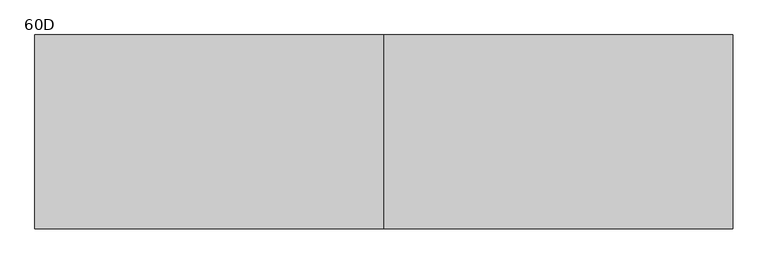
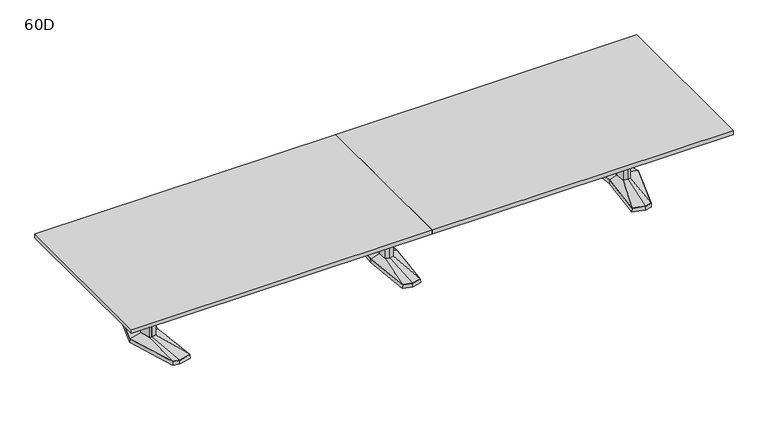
"""IFC4 building model written with IfcOpenShell, lengths in millimetres: furniture geometry, Coalesse_AM_Table_Conference_ETable2_Rectangular_18ft_AluminiumBase : 60D."""

import ifcopenshell
import ifcopenshell.guid

model = None  # the IFC model being written
_history = None  # IfcOwnerHistory: only IFC2X3 demands one
_inside = {}  # id of a spatial element -> (the spatial element, [elements in it])
_under = {}  # id of a project, library or spatial element -> (it, [spatial elements below it])
_declared = {}  # id of a project -> (the project, [libraries it declares])
_typed = {}  # id of a type object -> (the type object, [elements of that type])
_made_of = {}  # id of a material, layer set ... -> (it, [elements and type objects made of it])


def new_model(schema):
    """Start an empty IFC model of exactly this schema.

    Asked for "IFC4X3", IfcOpenShell would pick the latest addendum, in which some entities
    have other attributes; the version numbers below select the first issue.
    IFC2X3 requires an IfcOwnerHistory on every rooted entity: one is made here for all.
    """
    global model, _history
    if schema == "IFC4X3":
        model = ifcopenshell.file(schema_version=(4, 3, 0, 0))
    else:
        model = ifcopenshell.file(schema=schema)
    _inside.clear()
    _under.clear()
    _declared.clear()
    _typed.clear()
    _made_of.clear()
    _history = None
    if model.schema == "IFC2X3":
        org = make("IfcOrganization", Name="unknown")
        user = make(
            "IfcPersonAndOrganization",
            ThePerson=make("IfcPerson", FamilyName="unknown"),
            TheOrganization=org,
        )
        app = make(
            "IfcApplication",
            ApplicationDeveloper=org,
            Version="unknown",
            ApplicationFullName="unknown",
            ApplicationIdentifier="unknown",
        )
        _history = make(
            "IfcOwnerHistory",
            OwningUser=user,
            OwningApplication=app,
            ChangeAction="ADDED",
            CreationDate=0,
        )
    return model


def make(cls, **values):
    """One entity of the class cls with the attributes given. An attribute that is None is left unset."""
    return model.create_entity(
        cls, **{name: value for name, value in values.items() if value is not None}
    )


def rooted(cls, **values):
    """An entity with a GlobalId (a new one), such as an element, a storey or a relation."""
    return make(cls, GlobalId=ifcopenshell.guid.new(), OwnerHistory=_history, **values)


def si_unit(unit_type, name, prefix=None):
    """IfcSIUnit, for example si_unit("LENGTHUNIT", "METRE", prefix="MILLI")."""
    return make("IfcSIUnit", UnitType=unit_type, Prefix=prefix, Name=name)


def assignment(units):
    """IfcUnitAssignment: the units of a project."""
    return None if units is None else make("IfcUnitAssignment", Units=units)


def point(xyz):
    """IfcCartesianPoint."""
    return None if xyz is None else make("IfcCartesianPoint", Coordinates=xyz)


def direction(xyz):
    """IfcDirection."""
    return None if xyz is None else make("IfcDirection", DirectionRatios=xyz)


def frame(location, z_axis=None, x_axis=None):
    """IfcAxis2Placement3D, a coordinate frame: its origin and axes. An axis left out is left unset."""
    return make(
        "IfcAxis2Placement3D",
        Location=point(location),
        Axis=direction(z_axis),
        RefDirection=direction(x_axis),
    )


def origin():
    """The frame at (0, 0, 0) with its axes left unset."""
    return frame((0.0, 0.0, 0.0))


def place(relative_to, where):
    """IfcLocalPlacement: puts the frame where relative to a parent placement (None: the world)."""
    return make(
        "IfcLocalPlacement", PlacementRelTo=relative_to, RelativePlacement=where
    )


def context(
    kind, dimensions, precision=None, world=None, true_north=None, identifier=None
):
    """IfcGeometricRepresentationContext, for example the 3D "Model" context."""
    return make(
        "IfcGeometricRepresentationContext",
        ContextIdentifier=identifier,
        ContextType=kind,
        CoordinateSpaceDimension=dimensions,
        Precision=precision,
        WorldCoordinateSystem=world,
        TrueNorth=true_north,
    )


def project(units=None, contexts=None):
    """IfcProject with its units and contexts."""
    return rooted(
        "IfcProject",
        Name="project",
        RepresentationContexts=contexts,
        UnitsInContext=assignment(units),
    )


def spatial(cls, under=None, at=None, **own):
    """A site, building, storey or space (cls), placed at a placement, below another one or the project."""
    s = rooted(cls, ObjectPlacement=at, **own)
    if under is not None:
        _under.setdefault(under.id(), (under, []))[1].append(s)
    return s


def polyline(points):
    """IfcPolyline through the points."""
    return make("IfcPolyline", Points=[point(p) for p in points])


def outline(outer, holes=None, kind="AREA"):
    """IfcArbitraryClosedProfileDef: a profile drawn as a closed curve; with holes, ...WithVoids."""
    if holes is None:
        return make("IfcArbitraryClosedProfileDef", ProfileType=kind, OuterCurve=outer)
    return make(
        "IfcArbitraryProfileDefWithVoids",
        ProfileType=kind,
        OuterCurve=outer,
        InnerCurves=holes,
    )


def extrude(swept, where, along, depth):
    """IfcExtrudedAreaSolid: the profile swept, set in the frame where, extruded along a direction by depth."""
    return make(
        "IfcExtrudedAreaSolid",
        SweptArea=swept,
        Position=where,
        ExtrudedDirection=direction(along),
        Depth=depth,
    )


def faces_of(points, faces, orient=None, outer=None):
    """IfcFace entities. A face is a list of loops; a loop is a list of indices into points, from 0.

    orient and outer hold one flag for each loop. By default every Orientation is true, the
    first loop of a face is its IfcFaceOuterBound and the others are IfcFaceBound.
    """
    made = []
    for i, loops in enumerate(faces):
        bounds = []
        for j, loop in enumerate(loops):
            is_outer = j == 0 if outer is None else outer[i][j]
            bounds.append(
                make(
                    "IfcFaceOuterBound" if is_outer else "IfcFaceBound",
                    Bound=make("IfcPolyLoop", Polygon=[points[k] for k in loop]),
                    Orientation=True if orient is None else orient[i][j],
                )
            )
        made.append(make("IfcFace", Bounds=bounds))
    return made


def faceted_brep(points, faces, orient=None, outer=None, voids=None):
    """IfcFacetedBrep: a solid bounded by flat faces; with voids (closed shells), ...WithVoids."""
    shared = [point(p) for p in points]
    hull = make("IfcClosedShell", CfsFaces=faces_of(shared, faces, orient, outer))
    if voids is None:
        return make("IfcFacetedBrep", Outer=hull)
    return make(
        "IfcFacetedBrepWithVoids",
        Outer=hull,
        Voids=[
            make(cls, CfsFaces=faces_of(shared, fs, o, b)) for cls, fs, o, b in voids
        ],
    )


def shape(context_of_items, identifier, shape_type, items):
    """IfcShapeRepresentation: the items that make up one representation, for example the "Body"."""
    return make(
        "IfcShapeRepresentation",
        ContextOfItems=context_of_items,
        RepresentationIdentifier=identifier,
        RepresentationType=shape_type,
        Items=items,
    )


def source(mapping_origin, context_of_items, identifier, shape_type, items):
    """IfcRepresentationMap: a shape defined once, which mapped items show again and again."""
    return make(
        "IfcRepresentationMap",
        MappingOrigin=mapping_origin,
        MappedRepresentation=shape(context_of_items, identifier, shape_type, items),
    )


def transform(
    local_origin,
    x_axis=None,
    y_axis=None,
    z_axis=None,
    scale=None,
    scale2=None,
    scale3=None,
    uniform=True,
):
    """IfcCartesianTransformationOperator3D, or its non-uniform kind. x_axis, y_axis, z_axis: its Axis1, 2, 3."""
    if uniform:
        return make(
            "IfcCartesianTransformationOperator3D",
            Axis1=direction(x_axis),
            Axis2=direction(y_axis),
            LocalOrigin=point(local_origin),
            Scale=scale,
            Axis3=direction(z_axis),
        )
    return make(
        "IfcCartesianTransformationOperator3DnonUniform",
        Axis1=direction(x_axis),
        Axis2=direction(y_axis),
        LocalOrigin=point(local_origin),
        Scale=scale,
        Axis3=direction(z_axis),
        Scale2=scale2,
        Scale3=scale3,
    )


def mapped(mapping_source, mapping_target):
    """IfcMappedItem: shows the shape of a source again, moved by a transform."""
    return make(
        "IfcMappedItem", MappingSource=mapping_source, MappingTarget=mapping_target
    )


def made_of(thing, what):
    """Note that an element or type object is made of a material, layer set ...; save() writes the relation."""
    if what is not None:
        _made_of.setdefault(what.id(), (what, []))[1].append(thing)
    return thing


def element(
    cls,
    number,
    at=None,
    inside=None,
    cuts=None,
    type_object=None,
    material=None,
    context=None,
    identifier="Body",
    shape_type=None,
    held_by="IfcProductDefinitionShape",
    body=None,
    shapes=None,
    **own,
):
    """One element of the class cls, such as IfcWall. Its Tag is "e" and its number.

    at: its placement. inside: the storey or other place that contains it. cuts: it is an
    opening in that element (IfcRelVoidsElement). A single representation is given by context,
    identifier, shape_type and body (its items); several are given by shapes. held_by: the class
    of the entity that holds the representations. save() writes the other relations.
    """
    e = rooted(cls, Tag="e%d" % number, ObjectPlacement=at, **own)
    if body is not None:
        shapes = [shape(context, identifier, shape_type, body)]
    if shapes is not None:
        e.Representation = make(held_by, Representations=shapes)
    if inside is not None:
        _inside.setdefault(inside.id(), (inside, []))[1].append(e)
    if cuts is not None:
        rooted(
            "IfcRelVoidsElement", RelatingBuildingElement=cuts, RelatedOpeningElement=e
        )
    if type_object is not None:
        _typed.setdefault(type_object.id(), (type_object, []))[1].append(e)
    return made_of(e, material)


def aggregate(whole, parts):
    """IfcRelAggregates: a whole, such as a stair, and the parts it consists of."""
    return rooted("IfcRelAggregates", RelatingObject=whole, RelatedObjects=parts)


def save(model, path):
    """Write the relations noted so far, then the file.

    IfcRelAggregates (storeys below a building ...), IfcRelContainedInSpatialStructure (elements
    in a storey), IfcRelDefinesByType, IfcRelAssociatesMaterial and IfcRelDeclares: one each for
    every whole, place, type object, material and project.
    """
    for whole, parts in _under.values():
        aggregate(whole, parts)
    for where, things in _inside.values():
        rooted(
            "IfcRelContainedInSpatialStructure",
            RelatedElements=things,
            RelatingStructure=where,
        )
    for kind, things in _typed.values():
        rooted("IfcRelDefinesByType", RelatedObjects=things, RelatingType=kind)
    for what, things in _made_of.values():
        rooted("IfcRelAssociatesMaterial", RelatedObjects=things, RelatingMaterial=what)
    for by, libraries in _declared.values():
        rooted("IfcRelDeclares", RelatingContext=by, RelatedDefinitions=libraries)
    model.write(path)


def plane_surface(at):
    """IfcPlane: the flat surface through the origin of the frame at, square to its z axis."""
    return make("IfcPlane", Position=at)


def spline_surface(u_degree, v_degree, points, u_multiplicities, v_multiplicities, u_knots, v_knots, weights=None):
    """IfcBSplineSurfaceWithKnots; with weights, IfcRationalBSplineSurfaceWithKnots. points: one row for each step in u."""
    own = dict(
        UDegree=u_degree,
        VDegree=v_degree,
        ControlPointsList=[[point(p) for p in row] for row in points],
        SurfaceForm="UNSPECIFIED",
        UClosed=False,
        VClosed=False,
        SelfIntersect=False,
        UMultiplicities=u_multiplicities,
        VMultiplicities=v_multiplicities,
        UKnots=u_knots,
        VKnots=v_knots,
        KnotSpec="UNSPECIFIED",
    )
    if weights is None:
        return make("IfcBSplineSurfaceWithKnots", **own)
    return make("IfcRationalBSplineSurfaceWithKnots", WeightsData=weights, **own)


def advanced_brep(points, edges, surfaces, faces):
    """IfcAdvancedBrep: a solid bounded by faces that lie on surfaces and meet in shared edges.

    An edge is (start, end): straight between two places in points (the first is 0);
    or (start, end, curve); or (start, end, curve, False) where it runs against its curve.
    A face is (place in surfaces, loops), or (place, loops, False) where it looks against
    its surface's normal. A loop lists edges by number (the first is 1), with a minus sign
    where the edge is run from its end to its start. The first loop is the outer one.
    """
    corners = [point(p) for p in points]
    vertices = [make("IfcVertexPoint", VertexGeometry=c) for c in corners]
    made = []
    for start, end, *more in edges:
        made.append(
            make(
                "IfcEdgeCurve",
                EdgeStart=vertices[start],
                EdgeEnd=vertices[end],
                EdgeGeometry=more[0] if more else make("IfcPolyline", Points=[corners[start], corners[end]]),
                SameSense=more[1] if len(more) > 1 else True,
            )
        )
    hull = []
    for where, loops, *sense in faces:
        bounds = []
        for j, loop in enumerate(loops):
            ring = [make("IfcOrientedEdge", EdgeElement=made[abs(k) - 1], Orientation=k > 0) for k in loop]
            bounds.append(
                make(
                    "IfcFaceOuterBound" if j == 0 else "IfcFaceBound",
                    Bound=make("IfcEdgeLoop", EdgeList=ring),
                    Orientation=True,
                )
            )
        hull.append(make("IfcAdvancedFace", Bounds=bounds, FaceSurface=surfaces[where], SameSense=sense[0] if sense else True))
    return make("IfcAdvancedBrep", Outer=make("IfcClosedShell", CfsFaces=hull))


def furniture_60d_978beac0(model_context):
    return source(origin(), model_context, "Body", "SolidModel", [
        faceted_brep([(-81.2333791, -433.8053819, 38.1), (0.0, -455.556576, 38.1), (81.2333791, -433.8053819, 38.1), (119.0564774, 0.0, 38.1), (81.2333791, 433.8053819, 38.1), (0.0, 455.556576, 38.1), (-81.2333791, 433.8053819, 38.1), (-119.0564774, 0.0, 38.1), (-82.7182795, -435.0512063, 3.175), (-120.65, 0.0, 3.175), (-82.7182795, 435.0512063, 3.175), (0.0, 457.2, 3.175), (82.7182795, 435.0512063, 3.175), (120.65, 0.0, 3.175), (82.7182795, -435.0512063, 3.175), (0.0, -457.2, 3.175), (0.0, 429.2617927, 3.175), (-77.9676806, 408.3850278, 3.175), (-74.7019821, 382.9646737, 3.175), (0.0, 402.9670094, 3.175), (74.7019821, 382.9646737, 3.175), (77.9676806, 408.3850278, 3.175), (0.0, -429.2617927, 3.175), (77.9676806, -408.3850278, 3.175), (74.7019821, -382.9646737, 3.175), (0.0, -402.9670094, 3.175), (-74.7019821, -382.9646737, 3.175), (-77.9676806, -408.3850278, 3.175), (-71.8574262, 114.6326257, 3.175), (-82.5426076, 0.0, 3.175), (-71.8574262, -114.6326257, 3.175), (0.0, -133.8761372, 3.175), (71.8574262, -114.6326257, 3.175), (82.5426076, 0.0, 3.175), (71.8574262, 114.6326257, 3.175), (0.0, 133.8761372, 3.175), (0.0, 429.2617927, 0.0), (77.9676806, 408.3850278, 0.0), (74.7019821, 382.9646737, 0.0), (0.0, 402.9670094, 0.0), (-74.7019821, 382.9646737, 0.0), (-77.9676806, 408.3850278, 0.0), (0.0, -429.2617927, 0.0), (-77.9676806, -408.3850278, 0.0), (-74.7019821, -382.9646737, 0.0), (0.0, -402.9670094, 0.0), (74.7019821, -382.9646737, 0.0), (77.9676806, -408.3850278, 0.0), (-71.8574262, 114.6326257, 0.0), (0.0, 133.8761372, 0.0), (71.8574262, 114.6326257, 0.0), (82.5426076, 0.0, 0.0), (71.8574262, -114.6326257, 0.0), (0.0, -133.8761372, 0.0), (-71.8574262, -114.6326257, 0.0), (-82.5426076, 0.0, 0.0)], [[[0, 1, 2, 3, 4, 5, 6, 7]], [[8, 9, 10, 11, 12, 13, 14, 15], [16, 17, 18, 19, 20, 21], [22, 23, 24, 25, 26, 27], [28, 29, 30, 31, 32, 33, 34, 35]], [[1, 0, 8, 15]], [[2, 1, 15, 14]], [[3, 2, 14, 13]], [[4, 3, 13, 12]], [[5, 4, 12, 11]], [[6, 5, 11, 10]], [[7, 6, 10, 9]], [[0, 7, 9, 8]], [[36, 37, 38, 39, 40, 41]], [[42, 43, 44, 45, 46, 47]], [[48, 49, 50, 51, 52, 53, 54, 55]], [[36, 41, 17, 16]], [[41, 40, 18, 17]], [[40, 39, 19, 18]], [[39, 38, 20, 19]], [[38, 37, 21, 20]], [[37, 36, 16, 21]], [[42, 47, 23, 22]], [[47, 46, 24, 23]], [[46, 45, 25, 24]], [[45, 44, 26, 25]], [[44, 43, 27, 26]], [[43, 42, 22, 27]], [[48, 55, 29, 28]], [[55, 54, 30, 29]], [[54, 53, 31, 30]], [[53, 52, 32, 31]], [[52, 51, 33, 32]], [[51, 50, 34, 33]], [[50, 49, 35, 34]], [[49, 48, 28, 35]]]),
        faceted_brep([(-36.3832834, 84.6900825, 698.5), (-44.2774487, 0.0, 698.5), (-36.3832834, -84.6900825, 698.5), (0.0, -94.4335728, 698.5), (36.3832834, -84.6900825, 698.5), (44.2774487, 0.0, 698.5), (36.3832834, 84.6900825, 698.5), (0.0, 94.4335728, 698.5), (-36.3832834, 84.6900825, 63.5), (0.0, 94.4335728, 63.5), (36.3832834, 84.6900825, 63.5), (44.2774487, 0.0, 63.5), (36.3832834, -84.6900825, 63.5), (0.0, -94.4335728, 63.5), (-36.3832834, -84.6900825, 63.5), (-44.2774487, 0.0, 63.5)], [[[0, 1, 2, 3, 4, 5, 6, 7]], [[8, 9, 10, 11, 12, 13, 14, 15]], [[1, 0, 8, 15]], [[2, 1, 15, 14]], [[3, 2, 14, 13]], [[4, 3, 13, 12]], [[5, 4, 12, 11]], [[6, 5, 11, 10]], [[7, 6, 10, 9]], [[0, 7, 9, 8]]]),
        advanced_brep(
        [(-36.3832834, 84.6900825, 63.5), (-44.2774487, 0.0, 63.5), (-36.3832834, -84.6900825, 63.5), (0.0, -94.4335728, 63.5), (36.3832834, -84.6900825, 63.5), (44.2774487, 0.0, 63.5), (36.3832834, 84.6900825, 63.5), (0.0, 94.4335728, 63.5), (-81.2333791, 433.8053819, 38.1), (0.0, 455.556576, 38.1), (81.2333791, 433.8053819, 38.1), (119.0564774, 0.0, 38.1), (81.2333791, -433.8053819, 38.1), (0.0, -455.556576, 38.1), (-81.2333791, -433.8053819, 38.1), (-119.0564774, 0.0, 38.1)],
        [
            (0, 1),
            (1, 2),
            (2, 3),
            (3, 4),
            (4, 5),
            (5, 6),
            (6, 7),
            (7, 0),
            (8, 9),
            (9, 10),
            (10, 11),
            (11, 12),
            (12, 13),
            (13, 14),
            (14, 15),
            (15, 8),
            (15, 1),
            (0, 8),
            (14, 2),
            (13, 3),
            (12, 4),
            (11, 5),
            (10, 6),
            (9, 7),
        ],
        [
            plane_surface(frame((0.0, 0.0, 63.5), z_axis=(0.0, 0.0, 1.0000000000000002), x_axis=(-0.9659615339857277, -0.25868574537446, 0.0))),
            plane_surface(frame((0.0, 0.0, 38.1), z_axis=(0.0, 0.0, -1.0000000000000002), x_axis=(-0.9659615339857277, -0.25868574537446, 0.0))),
            spline_surface(1, 1, [[(-81.2333791, 433.8053819, 38.1), (-36.3832834, 84.6900825, 63.5)], [(-119.0564774, 0.0, 38.1), (-44.2774487, 0.0, 63.5)]], [2, 2], [2, 2], [0.0, 1.0], [0.0, 1.0]),
            spline_surface(1, 1, [[(-119.0564774, 0.0, 38.1), (-44.2774487, 0.0, 63.5)], [(-81.2333791, -433.8053819, 38.1), (-36.3832834, -84.6900825, 63.5)]], [2, 2], [2, 2], [0.0, 1.0], [0.0, 1.0]),
            spline_surface(1, 1, [[(-81.2333791, -433.8053819, 38.1), (-36.3832834, -84.6900825, 63.5)], [(0.0, -455.556576, 38.1), (0.0, -94.4335728, 63.5)]], [2, 2], [2, 2], [0.0, 1.0], [0.0, 1.0]),
            spline_surface(1, 1, [[(0.0, -455.556576, 38.1), (0.0, -94.4335728, 63.5)], [(81.2333791, -433.8053819, 38.1), (36.3832834, -84.6900825, 63.5)]], [2, 2], [2, 2], [0.0, 1.0], [0.0, 1.0]),
            spline_surface(1, 1, [[(81.2333791, -433.8053819, 38.1), (36.3832834, -84.6900825, 63.5)], [(119.0564774, 0.0, 38.1), (44.2774487, 0.0, 63.5)]], [2, 2], [2, 2], [0.0, 1.0], [0.0, 1.0]),
            spline_surface(1, 1, [[(119.0564774, 0.0, 38.1), (44.2774487, 0.0, 63.5)], [(81.2333791, 433.8053819, 38.1), (36.3832834, 84.6900825, 63.5)]], [2, 2], [2, 2], [0.0, 1.0], [0.0, 1.0]),
            spline_surface(1, 1, [[(81.2333791, 433.8053819, 38.1), (36.3832834, 84.6900825, 63.5)], [(0.0, 455.556576, 38.1), (0.0, 94.4335728, 63.5)]], [2, 2], [2, 2], [0.0, 1.0], [0.0, 1.0]),
            spline_surface(1, 1, [[(0.0, 455.556576, 38.1), (0.0, 94.4335728, 63.5)], [(-81.2333791, 433.8053819, 38.1), (-36.3832834, 84.6900825, 63.5)]], [2, 2], [2, 2], [0.0, 1.0], [0.0, 1.0]),
        ],
        [
            (0, [[1, 2, 3, 4, 5, 6, 7, 8]]),
            (1, [[9, 10, 11, 12, 13, 14, 15, 16]]),
            (2, [[-16, 17, -1, 18]]),
            (3, [[-15, 19, -2, -17]]),
            (4, [[-14, 20, -3, -19]]),
            (5, [[-13, 21, -4, -20]]),
            (6, [[-12, 22, -5, -21]]),
            (7, [[-11, 23, -6, -22]]),
            (8, [[-10, 24, -7, -23]]),
            (9, [[-9, -18, -8, -24]]),
        ],
    ),
        faceted_brep([(2125.0306835, 455.5848221, 38.1), (2015.4531277, 426.2263816, 38.1), (2056.6163717, 0.0, 38.1), (2015.4531277, -426.2263816, 38.1), (2125.0306835, -455.5848221, 38.1), (2181.1570396, -440.5478297, 38.1), (2318.4684269, 0.0, 38.1), (2181.1570396, 440.5478297, 38.1), (2125.0306754, 457.2283104, 3.175), (2182.4124472, 441.8549756, 3.175), (2320.13125, 0.0, 3.175), (2182.4124472, -441.8549756, 3.175), (2125.0306754, -457.2283104, 3.175), (2013.74375, -427.4118891, 3.175), (2055.0214856, 0.0, 3.175), (2013.74375, 427.4118891, 3.175), (2128.620115, 428.3273875, 3.175), (2023.5718228, 402.1057253, 3.175), (2031.690518, 377.985069, 3.175), (2132.2095466, 401.0699529, 3.175), (2182.7691725, 387.524361, 3.175), (2181.9631061, 414.0360954, 3.175), (2128.620115, -428.3273875, 3.175), (2181.9631061, -414.0360954, 3.175), (2182.7691725, -387.524361, 3.175), (2132.2095466, -401.0699529, 3.175), (2031.690518, -377.985069, 3.175), (2023.5718228, -402.1057253, 3.175), (2255.2153621, 0.0, 3.175), (2222.9459611, 120.4193755, 3.175), (2174.2987222, 133.471665, 3.175), (2094.4180526, 119.4176561, 3.175), (2083.2868466, 0.0, 3.175), (2094.4180526, -119.4176561, 3.175), (2174.2987222, -133.471665, 3.175), (2222.9459611, -120.4193755, 3.175), (2128.620115, 428.3273875, 0.0), (2181.9631061, 414.0360954, 0.0), (2182.7691725, 387.524361, 0.0), (2132.2095466, 401.0699529, 0.0), (2031.690518, 377.985069, 0.0), (2023.5718228, 402.1057253, 0.0), (2128.620115, -428.3273875, 0.0), (2023.5718228, -402.1057253, 0.0), (2031.690518, -377.985069, 0.0), (2132.2095466, -401.0699529, 0.0), (2182.7691725, -387.524361, 0.0), (2181.9631061, -414.0360954, 0.0), (2255.2153621, 0.0, 0.0), (2222.9459611, -120.4193755, 0.0), (2174.2987222, -133.471665, 0.0), (2094.4180526, -119.4176561, 0.0), (2083.2868466, 0.0, 0.0), (2094.4180526, 119.4176561, 0.0), (2174.2987222, 133.471665, 0.0), (2222.9459611, 120.4193755, 0.0)], [[[0, 1, 2, 3, 4, 5, 6, 7]], [[8, 9, 10, 11, 12, 13, 14, 15], [16, 17, 18, 19, 20, 21], [22, 23, 24, 25, 26, 27], [28, 29, 30, 31, 32, 33, 34, 35]], [[7, 9, 8, 0]], [[6, 10, 9, 7]], [[5, 11, 10, 6]], [[4, 12, 11, 5]], [[3, 13, 12, 4]], [[2, 14, 13, 3]], [[1, 15, 14, 2]], [[0, 8, 15, 1]], [[36, 37, 38, 39, 40, 41]], [[42, 43, 44, 45, 46, 47]], [[48, 49, 50, 51, 52, 53, 54, 55]], [[36, 16, 21, 37]], [[37, 21, 20, 38]], [[38, 20, 19, 39]], [[39, 19, 18, 40]], [[40, 18, 17, 41]], [[41, 17, 16, 36]], [[42, 22, 27, 43]], [[43, 27, 26, 44]], [[44, 26, 25, 45]], [[45, 25, 24, 46]], [[46, 24, 23, 47]], [[47, 23, 22, 42]], [[48, 28, 35, 49]], [[49, 35, 34, 50]], [[50, 34, 33, 51]], [[51, 33, 32, 52]], [[52, 32, 31, 53]], [[53, 31, 30, 54]], [[54, 30, 29, 55]], [[55, 29, 28, 48]]]),
        faceted_brep([(2215.7710836, 0.0, 698.5), (2191.8358546, 89.3188359, 698.5), (2174.9824984, 93.8406728, 698.5), (2172.5826511, 94.4845635, 698.5), (2129.655146, 86.9320037, 698.5), (2121.5520056, 0.0, 698.5), (2129.655146, -86.9320037, 698.5), (2172.5826511, -94.4845635, 698.5), (2174.9824984, -93.8406728, 698.5), (2191.8358546, -89.3188359, 698.5), (2215.7710836, 0.0, 63.5), (2191.8358546, -89.3188359, 63.5), (2174.9824984, -93.8406728, 63.5), (2172.5826511, -94.4845635, 63.5), (2129.655146, -86.9320037, 63.5), (2121.5520056, 0.0, 63.5), (2129.655146, 86.9320037, 63.5), (2172.5826511, 94.4845635, 63.5), (2174.9824984, 93.8406728, 63.5), (2191.8358546, 89.3188359, 63.5)], [[[0, 1, 2, 3, 4, 5, 6, 7, 8, 9]], [[10, 11, 12, 13, 14, 15, 16, 17, 18, 19]], [[9, 11, 10, 0]], [[8, 12, 11, 9]], [[7, 13, 12, 8]], [[6, 14, 13, 7]], [[5, 15, 14, 6]], [[4, 16, 15, 5]], [[3, 17, 16, 4]], [[2, 18, 17, 3]], [[1, 19, 18, 2]], [[0, 10, 19, 1]]]),
        advanced_brep(
        [(2172.5826511, 94.4845635, 63.5), (2129.655146, 86.9320037, 63.5), (2121.5520056, 0.0, 63.5), (2129.655146, -86.9320037, 63.5), (2172.5826511, -94.4845635, 63.5), (2191.8358546, -89.3188359, 63.5), (2215.7710836, 0.0, 63.5), (2191.8358546, 89.3188359, 63.5), (2125.0306835, 455.5848221, 38.1), (2181.1570396, 440.5478297, 38.1), (2318.4684269, 0.0, 38.1), (2181.1570396, -440.5478297, 38.1), (2125.0306835, -455.5848221, 38.1), (2015.4531277, -426.2263816, 38.1), (2056.6163717, 0.0, 38.1), (2015.4531277, 426.2263816, 38.1)],
        [
            (0, 1),
            (1, 2),
            (2, 3),
            (3, 4),
            (4, 5),
            (5, 6),
            (6, 7),
            (7, 0),
            (8, 9),
            (9, 10),
            (10, 11),
            (11, 12),
            (12, 13),
            (13, 14),
            (14, 15),
            (15, 8),
            (8, 0),
            (7, 9),
            (6, 10),
            (5, 11),
            (4, 12),
            (3, 13),
            (2, 14),
            (1, 15),
        ],
        [
            plane_surface(frame((2165.6837991, 0.0, 63.5), z_axis=(0.0, 0.0, 1.0), x_axis=(-0.25884244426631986, -0.9659195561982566, 0.0))),
            plane_surface(frame((2127.2958125, 0.0, 38.1), z_axis=(0.0, 0.0, -1.0), x_axis=(-0.25884244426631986, -0.9659195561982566, 0.0))),
            spline_surface(1, 1, [[(2125.0306835, 455.5848221, 38.1), (2181.1570396, 440.5478297, 38.1)], [(2172.5826511, 94.4845635, 63.5), (2191.8358546, 89.3188359, 63.5)]], [2, 2], [2, 2], [0.0, 1.0], [0.0, 1.0]),
            spline_surface(1, 1, [[(2181.1570396, 440.5478297, 38.1), (2318.4684269, 0.0, 38.1)], [(2191.8358546, 89.3188359, 63.5), (2215.7710836, 0.0, 63.5)]], [2, 2], [2, 2], [0.0, 1.0], [0.0, 1.0]),
            spline_surface(1, 1, [[(2318.4684269, 0.0, 38.1), (2181.1570396, -440.5478297, 38.1)], [(2215.7710836, 0.0, 63.5), (2191.8358546, -89.3188359, 63.5)]], [2, 2], [2, 2], [0.0, 1.0], [0.0, 1.0]),
            spline_surface(1, 1, [[(2181.1570396, -440.5478297, 38.1), (2125.0306835, -455.5848221, 38.1)], [(2191.8358546, -89.3188359, 63.5), (2172.5826511, -94.4845635, 63.5)]], [2, 2], [2, 2], [0.0, 1.0], [0.0, 1.0]),
            spline_surface(1, 1, [[(2125.0306835, -455.5848221, 38.1), (2015.4531277, -426.2263816, 38.1)], [(2172.5826511, -94.4845635, 63.5), (2129.655146, -86.9320037, 63.5)]], [2, 2], [2, 2], [0.0, 1.0], [0.0, 1.0]),
            spline_surface(1, 1, [[(2015.4531277, -426.2263816, 38.1), (2056.6163717, 0.0, 38.1)], [(2129.655146, -86.9320037, 63.5), (2121.5520056, 0.0, 63.5)]], [2, 2], [2, 2], [0.0, 1.0], [0.0, 1.0]),
            spline_surface(1, 1, [[(2056.6163717, 0.0, 38.1), (2015.4531277, 426.2263816, 38.1)], [(2121.5520056, 0.0, 63.5), (2129.655146, 86.9320037, 63.5)]], [2, 2], [2, 2], [0.0, 1.0], [0.0, 1.0]),
            spline_surface(1, 1, [[(2015.4531277, 426.2263816, 38.1), (2125.0306835, 455.5848221, 38.1)], [(2129.655146, 86.9320037, 63.5), (2172.5826511, 94.4845635, 63.5)]], [2, 2], [2, 2], [0.0, 1.0], [0.0, 1.0]),
        ],
        [
            (0, [[1, 2, 3, 4, 5, 6, 7, 8]]),
            (1, [[9, 10, 11, 12, 13, 14, 15, 16]]),
            (2, [[17, -8, 18, -9]]),
            (3, [[-18, -7, 19, -10]]),
            (4, [[-19, -6, 20, -11]]),
            (5, [[-20, -5, 21, -12]]),
            (6, [[-21, -4, 22, -13]]),
            (7, [[-22, -3, 23, -14]]),
            (8, [[-23, -2, 24, -15]]),
            (9, [[-24, -1, -17, -16]]),
        ],
    ),
        faceted_brep([(-2125.0306835, 455.5848221, 38.1), (-2181.1570396, 440.5478297, 38.1), (-2318.4684269, 0.0, 38.1), (-2181.1570396, -440.5478297, 38.1), (-2125.0306835, -455.5848221, 38.1), (-2015.4531277, -426.2263816, 38.1), (-2056.6163717, 0.0, 38.1), (-2015.4531277, 426.2263816, 38.1), (-2125.0306754, 457.2283104, 3.175), (-2013.74375, 427.4118891, 3.175), (-2055.0214856, 0.0, 3.175), (-2013.74375, -427.4118891, 3.175), (-2125.0306754, -457.2283104, 3.175), (-2182.4124472, -441.8549756, 3.175), (-2320.13125, 0.0, 3.175), (-2182.4124472, 441.8549756, 3.175), (-2128.620115, 428.3273875, 3.175), (-2181.9631061, 414.0360954, 3.175), (-2182.7691725, 387.524361, 3.175), (-2132.2095466, 401.0699529, 3.175), (-2031.690518, 377.985069, 3.175), (-2023.5718228, 402.1057253, 3.175), (-2128.620115, -428.3273875, 3.175), (-2023.5718228, -402.1057253, 3.175), (-2031.690518, -377.985069, 3.175), (-2132.2095466, -401.0699529, 3.175), (-2182.7691725, -387.524361, 3.175), (-2181.9631061, -414.0360954, 3.175), (-2255.2153621, 0.0, 3.175), (-2222.9459611, -120.4193755, 3.175), (-2174.2987222, -133.471665, 3.175), (-2094.4180526, -119.4176561, 3.175), (-2083.2868466, 0.0, 3.175), (-2094.4180526, 119.4176561, 3.175), (-2174.2987222, 133.471665, 3.175), (-2222.9459611, 120.4193755, 3.175), (-2128.620115, 428.3273875, 0.0), (-2023.5718228, 402.1057253, 0.0), (-2031.690518, 377.985069, 0.0), (-2132.2095466, 401.0699529, 0.0), (-2182.7691725, 387.524361, 0.0), (-2181.9631061, 414.0360954, 0.0), (-2128.620115, -428.3273875, 0.0), (-2181.9631061, -414.0360954, 0.0), (-2182.7691725, -387.524361, 0.0), (-2132.2095466, -401.0699529, 0.0), (-2031.690518, -377.985069, 0.0), (-2023.5718228, -402.1057253, 0.0), (-2255.2153621, 0.0, 0.0), (-2222.9459611, 120.4193755, 0.0), (-2174.2987222, 133.471665, 0.0), (-2094.4180526, 119.4176561, 0.0), (-2083.2868466, 0.0, 0.0), (-2094.4180526, -119.4176561, 0.0), (-2174.2987222, -133.471665, 0.0), (-2222.9459611, -120.4193755, 0.0)], [[[0, 1, 2, 3, 4, 5, 6, 7]], [[8, 9, 10, 11, 12, 13, 14, 15], [16, 17, 18, 19, 20, 21], [22, 23, 24, 25, 26, 27], [28, 29, 30, 31, 32, 33, 34, 35]], [[1, 0, 8, 15]], [[2, 1, 15, 14]], [[3, 2, 14, 13]], [[4, 3, 13, 12]], [[5, 4, 12, 11]], [[6, 5, 11, 10]], [[7, 6, 10, 9]], [[0, 7, 9, 8]], [[36, 37, 38, 39, 40, 41]], [[42, 43, 44, 45, 46, 47]], [[48, 49, 50, 51, 52, 53, 54, 55]], [[36, 41, 17, 16]], [[41, 40, 18, 17]], [[40, 39, 19, 18]], [[39, 38, 20, 19]], [[38, 37, 21, 20]], [[37, 36, 16, 21]], [[42, 47, 23, 22]], [[47, 46, 24, 23]], [[46, 45, 25, 24]], [[45, 44, 26, 25]], [[44, 43, 27, 26]], [[43, 42, 22, 27]], [[48, 55, 29, 28]], [[55, 54, 30, 29]], [[54, 53, 31, 30]], [[53, 52, 32, 31]], [[52, 51, 33, 32]], [[51, 50, 34, 33]], [[50, 49, 35, 34]], [[49, 48, 28, 35]]]),
        faceted_brep([(-2215.7710836, 0.0, 698.5), (-2191.8358546, -89.3188359, 698.5), (-2174.9824984, -93.8406728, 698.5), (-2172.5826511, -94.4845635, 698.5), (-2129.655146, -86.9320037, 698.5), (-2121.5520056, 0.0, 698.5), (-2129.655146, 86.9320037, 698.5), (-2172.5826511, 94.4845635, 698.5), (-2174.9824984, 93.8406728, 698.5), (-2191.8358546, 89.3188359, 698.5), (-2215.7710836, 0.0, 63.5), (-2191.8358546, 89.3188359, 63.5), (-2174.9824984, 93.8406728, 63.5), (-2172.5826511, 94.4845635, 63.5), (-2129.655146, 86.9320037, 63.5), (-2121.5520056, 0.0, 63.5), (-2129.655146, -86.9320037, 63.5), (-2172.5826511, -94.4845635, 63.5), (-2174.9824984, -93.8406728, 63.5), (-2191.8358546, -89.3188359, 63.5)], [[[0, 1, 2, 3, 4, 5, 6, 7, 8, 9]], [[10, 11, 12, 13, 14, 15, 16, 17, 18, 19]], [[1, 0, 10, 19]], [[2, 1, 19, 18]], [[3, 2, 18, 17]], [[4, 3, 17, 16]], [[5, 4, 16, 15]], [[6, 5, 15, 14]], [[7, 6, 14, 13]], [[8, 7, 13, 12]], [[9, 8, 12, 11]], [[0, 9, 11, 10]]]),
        advanced_brep(
        [(-2172.5826511, 94.4845635, 63.5), (-2191.8358546, 89.3188359, 63.5), (-2215.7710836, 0.0, 63.5), (-2191.8358546, -89.3188359, 63.5), (-2172.5826511, -94.4845635, 63.5), (-2129.655146, -86.9320037, 63.5), (-2121.5520056, 0.0, 63.5), (-2129.655146, 86.9320037, 63.5), (-2125.0306835, 455.5848221, 38.1), (-2015.4531277, 426.2263816, 38.1), (-2056.6163717, 0.0, 38.1), (-2015.4531277, -426.2263816, 38.1), (-2125.0306835, -455.5848221, 38.1), (-2181.1570396, -440.5478297, 38.1), (-2318.4684269, 0.0, 38.1), (-2181.1570396, 440.5478297, 38.1)],
        [
            (0, 1),
            (1, 2),
            (2, 3),
            (3, 4),
            (4, 5),
            (5, 6),
            (6, 7),
            (7, 0),
            (8, 9),
            (9, 10),
            (10, 11),
            (11, 12),
            (12, 13),
            (13, 14),
            (14, 15),
            (15, 8),
            (15, 1),
            (0, 8),
            (14, 2),
            (13, 3),
            (12, 4),
            (11, 5),
            (10, 6),
            (9, 7),
        ],
        [
            plane_surface(frame((-2165.6837991, 0.0, 63.5), z_axis=(0.0, 0.0, 1.0), x_axis=(0.25884244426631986, -0.9659195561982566, 0.0))),
            plane_surface(frame((-2127.2958125, 0.0, 38.1), z_axis=(0.0, 0.0, -1.0), x_axis=(0.25884244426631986, -0.9659195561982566, 0.0))),
            spline_surface(1, 1, [[(-2125.0306835, 455.5848221, 38.1), (-2172.5826511, 94.4845635, 63.5)], [(-2181.1570396, 440.5478297, 38.1), (-2191.8358546, 89.3188359, 63.5)]], [2, 2], [2, 2], [0.0, 1.0], [0.0, 1.0]),
            spline_surface(1, 1, [[(-2181.1570396, 440.5478297, 38.1), (-2191.8358546, 89.3188359, 63.5)], [(-2318.4684269, 0.0, 38.1), (-2215.7710836, 0.0, 63.5)]], [2, 2], [2, 2], [0.0, 1.0], [0.0, 1.0]),
            spline_surface(1, 1, [[(-2318.4684269, 0.0, 38.1), (-2215.7710836, 0.0, 63.5)], [(-2181.1570396, -440.5478297, 38.1), (-2191.8358546, -89.3188359, 63.5)]], [2, 2], [2, 2], [0.0, 1.0], [0.0, 1.0]),
            spline_surface(1, 1, [[(-2181.1570396, -440.5478297, 38.1), (-2191.8358546, -89.3188359, 63.5)], [(-2125.0306835, -455.5848221, 38.1), (-2172.5826511, -94.4845635, 63.5)]], [2, 2], [2, 2], [0.0, 1.0], [0.0, 1.0]),
            spline_surface(1, 1, [[(-2125.0306835, -455.5848221, 38.1), (-2172.5826511, -94.4845635, 63.5)], [(-2015.4531277, -426.2263816, 38.1), (-2129.655146, -86.9320037, 63.5)]], [2, 2], [2, 2], [0.0, 1.0], [0.0, 1.0]),
            spline_surface(1, 1, [[(-2015.4531277, -426.2263816, 38.1), (-2129.655146, -86.9320037, 63.5)], [(-2056.6163717, 0.0, 38.1), (-2121.5520056, 0.0, 63.5)]], [2, 2], [2, 2], [0.0, 1.0], [0.0, 1.0]),
            spline_surface(1, 1, [[(-2056.6163717, 0.0, 38.1), (-2121.5520056, 0.0, 63.5)], [(-2015.4531277, 426.2263816, 38.1), (-2129.655146, 86.9320037, 63.5)]], [2, 2], [2, 2], [0.0, 1.0], [0.0, 1.0]),
            spline_surface(1, 1, [[(-2015.4531277, 426.2263816, 38.1), (-2129.655146, 86.9320037, 63.5)], [(-2125.0306835, 455.5848221, 38.1), (-2172.5826511, 94.4845635, 63.5)]], [2, 2], [2, 2], [0.0, 1.0], [0.0, 1.0]),
        ],
        [
            (0, [[1, 2, 3, 4, 5, 6, 7, 8]]),
            (1, [[9, 10, 11, 12, 13, 14, 15, 16]]),
            (2, [[-16, 17, -1, 18]]),
            (3, [[-15, 19, -2, -17]]),
            (4, [[-14, 20, -3, -19]]),
            (5, [[-13, 21, -4, -20]]),
            (6, [[-12, 22, -5, -21]]),
            (7, [[-11, 23, -6, -22]]),
            (8, [[-10, 24, -7, -23]]),
            (9, [[-9, -18, -8, -24]]),
        ],
    ),
        extrude(outline(polyline([(96.8375, 698.5), (103.1875, 698.5), (103.1875, 476.25), (-103.1875, 476.25), (-103.1875, 698.5), (-96.8375, 698.5), (-96.8375, 482.6), (96.8375, 482.6), (96.8375, 698.5)])), frame((44.2774487, 0.0, 0.0), z_axis=(1.0, 0.0, 0.0), x_axis=(0.0, 1.0, 0.0)), (0.0, 0.0, 1.0), 2077.4163013),
        extrude(outline(polyline([(2743.2, 762.0), (2743.2, -762.0), (0.0, -762.0), (0.0, 762.0), (2743.2, 762.0)])), frame((0.0, 0.0, 698.5), z_axis=(0.0, 0.0, 1.0), x_axis=(1.0, 0.0, 0.0)), (0.0, 0.0, 1.0), 38.1),
        extrude(outline(polyline([(0.0, 762.0), (0.0, -762.0), (-2743.2, -762.0), (-2743.2, 762.0), (0.0, 762.0)])), frame((0.0, 0.0, 698.5), z_axis=(0.0, 0.0, 1.0), x_axis=(1.0, 0.0, 0.0)), (0.0, 0.0, 1.0), 38.1),
        extrude(outline(polyline([(96.8375, 698.5), (103.1875, 698.5), (103.1875, 476.25), (-103.1875, 476.25), (-103.1875, 698.5), (-96.8375, 698.5), (-96.8375, 482.6), (96.8375, 482.6), (96.8375, 698.5)])), frame((-2121.69375, 0.0, 0.0), z_axis=(1.0, 0.0, 0.0), x_axis=(0.0, 1.0, 0.0)), (0.0, 0.0, 1.0), 2077.4163013),
    ])


if __name__ == "__main__":
    model = new_model("IFC4")
    model_context = context("Model", 3, world=origin())
    ifc_project = project(units=[si_unit("LENGTHUNIT", "METRE", prefix="MILLI")], contexts=[model_context])
    site = spatial("IfcSite", under=ifc_project)
    building = spatial("IfcBuilding", under=site)
    placement = place(None, origin())
    furniture_60d_shape = furniture_60d_978beac0(model_context)
    element("IfcFurniture", 1, ObjectType="Coalesse_AM_Table_Conference_ETable2_Rectangular_18ft_AluminiumBase : 60D", at=placement, inside=building, context=model_context, shape_type="MappedRepresentation", body=[
        mapped(furniture_60d_shape, transform((0.0, 0.0, 0.0), x_axis=(1.0, 0.0, 0.0), y_axis=(0.0, 1.0, 0.0), z_axis=(0.0, 0.0, 1.0))),
    ])
    save(model, "model.ifc")
